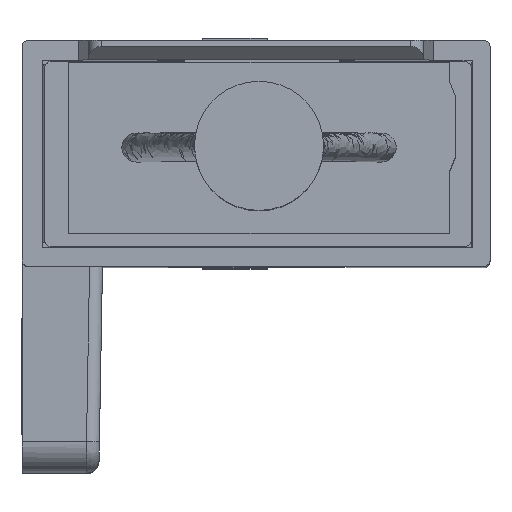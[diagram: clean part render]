
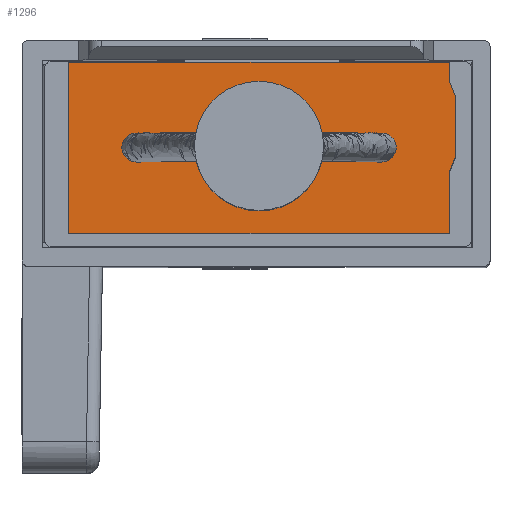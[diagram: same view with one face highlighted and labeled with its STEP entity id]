
A CAD part, top view. The second image highlights one B-rep face of the part: STEP entity #1296.
In plain terms, the highlighted planar face has unit normal (0, 0, 1).
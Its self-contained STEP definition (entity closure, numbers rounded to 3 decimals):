
#105=(
BOUNDED_CURVE()
B_SPLINE_CURVE(3,(#15748,#15749,#15750,#15751,#15752,#15753,#15754),
 .UNSPECIFIED.,.T.,.F.)
B_SPLINE_CURVE_WITH_KNOTS((1,3,3,3,1),(-0.5,0.,0.5,1.,1.5),
 .UNSPECIFIED.)
CURVE()
GEOMETRIC_REPRESENTATION_ITEM()
RATIONAL_B_SPLINE_CURVE((1.,0.333,0.333,1.,0.333,
0.333,1.))
REPRESENTATION_ITEM('')
);
#106=(
BOUNDED_CURVE()
B_SPLINE_CURVE(3,(#15774,#15775,#15776,#15777,#15778,#15779,#15780),
 .UNSPECIFIED.,.T.,.F.)
B_SPLINE_CURVE_WITH_KNOTS((1,3,3,3,1),(-0.5,0.,0.5,1.,1.5),
 .UNSPECIFIED.)
CURVE()
GEOMETRIC_REPRESENTATION_ITEM()
RATIONAL_B_SPLINE_CURVE((1.,0.333,0.333,1.,0.333,
0.333,1.))
REPRESENTATION_ITEM('')
);
#107=(
BOUNDED_CURVE()
B_SPLINE_CURVE(3,(#15782,#15783,#15784,#15785,#15786,#15787,#15788),
 .UNSPECIFIED.,.T.,.F.)
B_SPLINE_CURVE_WITH_KNOTS((1,3,3,3,1),(-0.5,0.,0.5,1.,1.5),
 .UNSPECIFIED.)
CURVE()
GEOMETRIC_REPRESENTATION_ITEM()
RATIONAL_B_SPLINE_CURVE((1.,0.333,0.333,1.,0.333,
0.333,1.))
REPRESENTATION_ITEM('')
);
#416=CIRCLE('',#11017,0.45);
#1296=ADVANCED_FACE('',(#2058,#2059,#2060,#2061,#2062),#1789,.T.);
#1789=PLANE('',#11018);
#2058=FACE_BOUND('',#2487,.T.);
#2059=FACE_BOUND('',#2488,.T.);
#2060=FACE_BOUND('',#2489,.T.);
#2061=FACE_BOUND('',#2490,.T.);
#2062=FACE_BOUND('',#2491,.T.);
#2487=EDGE_LOOP('',(#4467));
#2488=EDGE_LOOP('',(#4468));
#2489=EDGE_LOOP('',(#4469,#4470,#4471,#4472,#4473,#4474,#4475,#4476));
#2490=EDGE_LOOP('',(#4477));
#2491=EDGE_LOOP('',(#4478));
#4467=ORIENTED_EDGE('',*,*,#7543,.F.);
#4468=ORIENTED_EDGE('',*,*,#7544,.F.);
#4469=ORIENTED_EDGE('',*,*,#7545,.F.);
#4470=ORIENTED_EDGE('',*,*,#7546,.F.);
#4471=ORIENTED_EDGE('',*,*,#7547,.F.);
#4472=ORIENTED_EDGE('',*,*,#7548,.F.);
#4473=ORIENTED_EDGE('',*,*,#7549,.F.);
#4474=ORIENTED_EDGE('',*,*,#7550,.F.);
#4475=ORIENTED_EDGE('',*,*,#7551,.F.);
#4476=ORIENTED_EDGE('',*,*,#7552,.F.);
#4477=ORIENTED_EDGE('',*,*,#7553,.F.);
#4478=ORIENTED_EDGE('',*,*,#7554,.F.);
#6278=VERTEX_POINT('',#15755);
#6279=VERTEX_POINT('',#15757);
#6280=VERTEX_POINT('',#15759);
#6281=VERTEX_POINT('',#15760);
#6282=VERTEX_POINT('',#15762);
#6283=VERTEX_POINT('',#15764);
#6284=VERTEX_POINT('',#15766);
#6285=VERTEX_POINT('',#15768);
#6286=VERTEX_POINT('',#15770);
#6287=VERTEX_POINT('',#15772);
#6288=VERTEX_POINT('',#15781);
#6289=VERTEX_POINT('',#15789);
#7543=EDGE_CURVE('',#6278,#6278,#105,.T.);
#7544=EDGE_CURVE('',#6279,#6279,#416,.T.);
#7545=EDGE_CURVE('',#6280,#6281,#8888,.T.);
#7546=EDGE_CURVE('',#6282,#6280,#8889,.T.);
#7547=EDGE_CURVE('',#6283,#6282,#8890,.T.);
#7548=EDGE_CURVE('',#6284,#6283,#8891,.T.);
#7549=EDGE_CURVE('',#6285,#6284,#8892,.T.);
#7550=EDGE_CURVE('',#6286,#6285,#8893,.T.);
#7551=EDGE_CURVE('',#6287,#6286,#8894,.T.);
#7552=EDGE_CURVE('',#6281,#6287,#8895,.T.);
#7553=EDGE_CURVE('',#6288,#6288,#106,.T.);
#7554=EDGE_CURVE('',#6289,#6289,#107,.T.);
#8888=LINE('',#15758,#10095);
#8889=LINE('',#15761,#10096);
#8890=LINE('',#15763,#10097);
#8891=LINE('',#15765,#10098);
#8892=LINE('',#15767,#10099);
#8893=LINE('',#15769,#10100);
#8894=LINE('',#15771,#10101);
#8895=LINE('',#15773,#10102);
#10095=VECTOR('',#12893,1.);
#10096=VECTOR('',#12894,1.);
#10097=VECTOR('',#12895,1.);
#10098=VECTOR('',#12896,1.);
#10099=VECTOR('',#12897,1.);
#10100=VECTOR('',#12898,1.);
#10101=VECTOR('',#12899,1.);
#10102=VECTOR('',#12900,1.);
#11017=AXIS2_PLACEMENT_3D('',#15756,#12891,#12892);
#11018=AXIS2_PLACEMENT_3D('',#15790,#12901,#12902);
#12891=DIRECTION('',(0.,0.,1.));
#12892=DIRECTION('',(0.,-1.,0.));
#12893=DIRECTION('',(-1.,0.,0.));
#12894=DIRECTION('',(0.,-1.,0.));
#12895=DIRECTION('',(-0.371,-0.928,0.));
#12896=DIRECTION('',(0.,-1.,0.));
#12897=DIRECTION('',(0.371,-0.928,0.));
#12898=DIRECTION('',(0.,-1.,0.));
#12899=DIRECTION('',(1.,0.,0.));
#12900=DIRECTION('',(0.,1.,0.));
#12901=DIRECTION('',(0.,0.,1.));
#12902=DIRECTION('',(0.,-1.,0.));
#15748=CARTESIAN_POINT('',(-119.256,-3.6,31.7));
#15749=CARTESIAN_POINT('',(-118.356,-3.6,31.7));
#15750=CARTESIAN_POINT('',(-118.356,-2.7,31.7));
#15751=CARTESIAN_POINT('',(-119.256,-2.7,31.7));
#15752=CARTESIAN_POINT('',(-120.156,-2.7,31.7));
#15753=CARTESIAN_POINT('',(-120.156,-3.6,31.7));
#15754=CARTESIAN_POINT('',(-119.256,-3.6,31.7));
#15755=CARTESIAN_POINT('',(-119.256,-3.6,31.7));
#15756=CARTESIAN_POINT('',(-121.556,-3.15,31.7));
#15757=CARTESIAN_POINT('',(-121.556,-3.6,31.7));
#15758=CARTESIAN_POINT('',(-123.656,-5.8,31.7));
#15759=CARTESIAN_POINT('',(-111.856,-5.8,31.7));
#15760=CARTESIAN_POINT('',(-123.656,-5.8,31.7));
#15761=CARTESIAN_POINT('',(-111.856,-5.8,31.7));
#15762=CARTESIAN_POINT('',(-111.856,-3.9,31.7));
#15763=CARTESIAN_POINT('',(-111.656,-3.4,31.7));
#15764=CARTESIAN_POINT('',(-111.656,-3.4,31.7));
#15765=CARTESIAN_POINT('',(-111.656,-3.4,31.7));
#15766=CARTESIAN_POINT('',(-111.656,-1.6,31.7));
#15767=CARTESIAN_POINT('',(-111.656,-1.6,31.7));
#15768=CARTESIAN_POINT('',(-111.856,-1.1,31.7));
#15769=CARTESIAN_POINT('',(-111.856,-1.1,31.7));
#15770=CARTESIAN_POINT('',(-111.856,-0.5,31.7));
#15771=CARTESIAN_POINT('',(-123.656,-0.5,31.7));
#15772=CARTESIAN_POINT('',(-123.656,-0.5,31.7));
#15773=CARTESIAN_POINT('',(-123.656,-5.8,31.7));
#15774=CARTESIAN_POINT('',(-113.956,-3.6,31.7));
#15775=CARTESIAN_POINT('',(-113.056,-3.6,31.7));
#15776=CARTESIAN_POINT('',(-113.056,-2.7,31.7));
#15777=CARTESIAN_POINT('',(-113.956,-2.7,31.7));
#15778=CARTESIAN_POINT('',(-114.856,-2.7,31.7));
#15779=CARTESIAN_POINT('',(-114.856,-3.6,31.7));
#15780=CARTESIAN_POINT('',(-113.956,-3.6,31.7));
#15781=CARTESIAN_POINT('',(-113.956,-3.6,31.7));
#15782=CARTESIAN_POINT('',(-116.256,-3.6,31.7));
#15783=CARTESIAN_POINT('',(-115.356,-3.6,31.7));
#15784=CARTESIAN_POINT('',(-115.356,-2.7,31.7));
#15785=CARTESIAN_POINT('',(-116.256,-2.7,31.7));
#15786=CARTESIAN_POINT('',(-117.156,-2.7,31.7));
#15787=CARTESIAN_POINT('',(-117.156,-3.6,31.7));
#15788=CARTESIAN_POINT('',(-116.256,-3.6,31.7));
#15789=CARTESIAN_POINT('',(-116.256,-3.6,31.7));
#15790=CARTESIAN_POINT('',(-123.656,-5.8,31.7));
